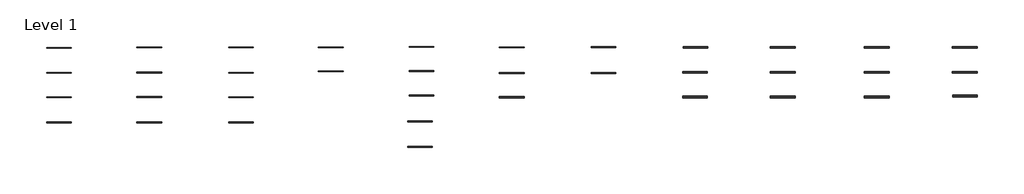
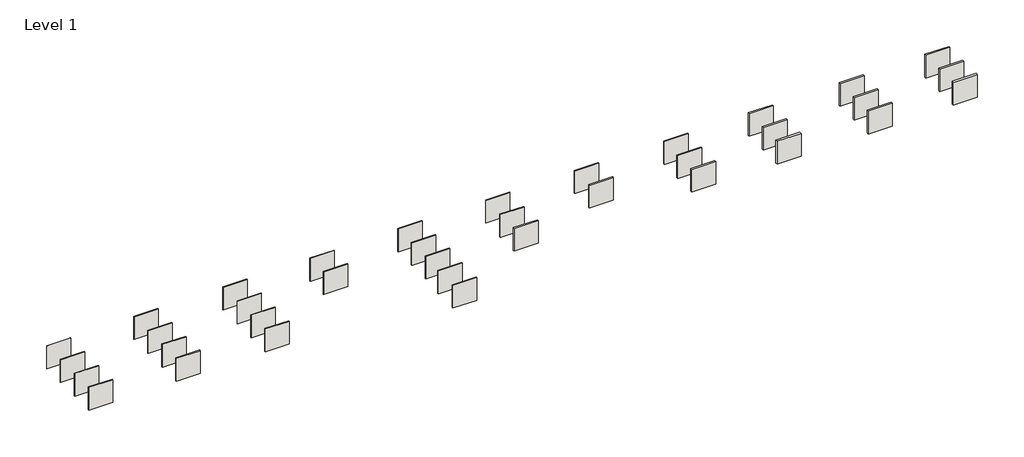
# One storey: 36 walls.
"""IFC4 building model written with IfcOpenShell, lengths in millimetres."""

from ifc_helpers import new_model, si_unit, origin, origin_with_axes, place, context, project, spatial, polyline, outline, extrude, element, save

model = new_model("IFC4")

# Units and contexts
model_context = context("Model", 3, world=origin())
ifc_project = project(units=[si_unit("LENGTHUNIT", "METRE", prefix="MILLI")], contexts=[model_context])

# Site, building, storey
site = spatial("IfcSite", under=ifc_project)
building = spatial("IfcBuilding", under=site)
storey = spatial("IfcBuildingStorey", under=building, Name="Level 1", Elevation=0.0)

# Walls
placement = place(None, origin())
element("IfcWall", 1, ObjectType="VE MR45 600 -/AA M45", at=placement, inside=storey, context=model_context, shape_type="SweptSolid", body=[
    extrude(outline(polyline([(-30801.5954882, -13133.6567413), (-34801.5954882, -13133.6567413), (-34801.5954882, -13063.6567391), (-30801.5954882, -13063.6567391), (-30801.5954882, -13133.6567413)])), origin_with_axes(), (0.0, 0.0, 1.0), 4000.0),
])
element("IfcWall", 2, ObjectType="VE MR70 600-/AA M45", at=placement, inside=storey, context=model_context, shape_type="SweptSolid", body=[
    extrude(outline(polyline([(-30801.5954882, -17163.936646), (-34801.5954882, -17163.936646), (-34801.5954882, -17068.9366429), (-30801.5954882, -17068.9366429), (-30801.5954882, -17163.936646)])), origin_with_axes(), (0.0, 0.0, 1.0), 4000.0),
])
element("IfcWall", 3, ObjectType="VE MR95 600 -/AA M45", at=placement, inside=storey, context=model_context, shape_type="SweptSolid", body=[
    extrude(outline(polyline([(-30801.5954882, -21151.7925516), (-34801.5954882, -21151.7925516), (-34801.5954882, -21031.7925478), (-30801.5954882, -21031.7925478), (-30801.5954882, -21151.7925516)])), origin_with_axes(), (0.0, 0.0, 1.0), 4000.0),
])
element("IfcWall", 4, ObjectType="VE MR120 600 -/AA M45", at=placement, inside=storey, context=model_context, shape_type="SweptSolid", body=[
    extrude(outline(polyline([(-30801.5954882, -25224.4964552), (-34801.5954882, -25224.4964552), (-34801.5954882, -25079.4964506), (-30801.5954882, -25079.4964506), (-30801.5954882, -25224.4964552)])), origin_with_axes(), (0.0, 0.0, 1.0), 4000.0),
])
element("IfcWall", 5, ObjectType="VE MR45 600 -/AAA M45", at=placement, inside=storey, context=model_context, shape_type="SweptSolid", body=[
    extrude(outline(polyline([(-16207.7398336, -13063.6567391), (-20207.7398336, -13063.6567391), (-20207.7398336, -12978.6567364), (-16207.7398336, -12978.6567364), (-16207.7398336, -13063.6567391)])), origin_with_axes(), (0.0, 0.0, 1.0), 4000.0),
])
element("IfcWall", 6, ObjectType="VE MR70 600 -/AAA M45", at=placement, inside=storey, context=model_context, shape_type="SweptSolid", body=[
    extrude(outline(polyline([(-16207.7398336, -17163.936646), (-20207.7398336, -17163.936646), (-20207.7398336, -17053.9366424), (-16207.7398336, -17053.9366424), (-16207.7398336, -17163.936646)])), origin_with_axes(), (0.0, 0.0, 1.0), 4000.0),
])
element("IfcWall", 7, ObjectType="VE MR95 600 -/AAA M45", at=placement, inside=storey, context=model_context, shape_type="SweptSolid", body=[
    extrude(outline(polyline([(-16207.7398336, -21151.7925516), (-20207.7398336, -21151.7925516), (-20207.7398336, -21016.7925473), (-16207.7398336, -21016.7925473), (-16207.7398336, -21151.7925516)])), origin_with_axes(), (0.0, 0.0, 1.0), 4000.0),
])
element("IfcWall", 8, ObjectType="VE MR120 600 -/AAA M45", at=placement, inside=storey, context=model_context, shape_type="SweptSolid", body=[
    extrude(outline(polyline([(-16207.7398336, -25224.4964552), (-20207.7398336, -25224.4964552), (-20207.7398336, -25064.4964501), (-16207.7398336, -25064.4964501), (-16207.7398336, -25224.4964552)])), origin_with_axes(), (0.0, 0.0, 1.0), 4000.0),
])
element("IfcWall", 9, ObjectType="VE MR45 600 A/A M45", at=placement, inside=storey, context=model_context, shape_type="SweptSolid", body=[
    extrude(outline(polyline([(-1364.4868988, -13063.6567391), (-5364.4868988, -13063.6567391), (-5364.4868988, -12993.6567368), (-1364.4868988, -12993.6567368), (-1364.4868988, -13063.6567391)])), origin_with_axes(), (0.0, 0.0, 1.0), 4000.0),
])
element("IfcWall", 10, ObjectType="VE MR70 600 A/A M45", at=placement, inside=storey, context=model_context, shape_type="SweptSolid", body=[
    extrude(outline(polyline([(-1364.4868988, -17163.936646), (-5364.4868988, -17163.936646), (-5364.4868988, -17068.9366429), (-1364.4868988, -17068.9366429), (-1364.4868988, -17163.936646)])), origin_with_axes(), (0.0, 0.0, 1.0), 4000.0),
])
element("IfcWall", 11, ObjectType="VE MR95 600 A/A M45", at=placement, inside=storey, context=model_context, shape_type="SweptSolid", body=[
    extrude(outline(polyline([(-1364.4868988, -21151.7925516), (-5364.4868988, -21151.7925516), (-5364.4868988, -21031.7925478), (-1364.4868988, -21031.7925478), (-1364.4868988, -21151.7925516)])), origin_with_axes(), (0.0, 0.0, 1.0), 4000.0),
])
element("IfcWall", 12, ObjectType="VE MR120 600 A/A M45", at=placement, inside=storey, context=model_context, shape_type="SweptSolid", body=[
    extrude(outline(polyline([(-1364.4868988, -25224.4964552), (-5364.4868988, -25224.4964552), (-5364.4868988, -25079.4964506), (-1364.4868988, -25079.4964506), (-1364.4868988, -25224.4964552)])), origin_with_axes(), (0.0, 0.0, 1.0), 4000.0),
])
element("IfcWall", 13, ObjectType="VE MR45 600 AA/AA M45", at=placement, inside=storey, context=model_context, shape_type="SweptSolid", body=[
    extrude(outline(polyline([(13137.8803041, -13063.6567391), (9137.8803041, -13063.6567391), (9137.8803041, -12968.656736), (13137.8803041, -12968.656736), (13137.8803041, -13063.6567391)])), origin_with_axes(), (0.0, 0.0, 1.0), 4000.0),
])
element("IfcWall", 14, ObjectType="VE MR+95 600 AA/AA MS", at=placement, inside=storey, context=model_context, shape_type="SweptSolid", body=[
    extrude(outline(polyline([(27585.9585974, -25066.5722658), (23585.9585974, -25066.5722658), (23585.9585974, -24921.5722611), (27585.9585974, -24921.5722611), (27585.9585974, -25066.5722658)])), origin_with_axes(), (0.0, 0.0, 1.0), 4000.0),
])
element("IfcWall", 15, ObjectType="VE MR+120 600 AA/AA MS", at=placement, inside=storey, context=model_context, shape_type="SweptSolid", body=[
    extrude(outline(polyline([(27585.9585974, -29238.0990545), (23585.9585974, -29238.0990545), (23585.9585974, -29068.099049), (27585.9585974, -29068.099049), (27585.9585974, -29238.0990545)])), origin_with_axes(), (0.0, 0.0, 1.0), 4000.0),
])
element("IfcWall", 16, ObjectType="VE MR70 600 AA/AA M45", at=placement, inside=storey, context=model_context, shape_type="SweptSolid", body=[
    extrude(outline(polyline([(27829.8965917, -12980.8560242), (23829.8965917, -12980.8560242), (23829.8965917, -12860.8560204), (27829.8965917, -12860.8560204), (27829.8965917, -12980.8560242)])), origin_with_axes(), (0.0, 0.0, 1.0), 4000.0),
])
element("IfcWall", 17, ObjectType="VE MR95 600 AA/AA M45", at=placement, inside=storey, context=model_context, shape_type="SweptSolid", body=[
    extrude(outline(polyline([(27829.8965917, -16958.6071588), (23829.8965917, -16958.6071588), (23829.8965917, -16813.6071542), (27829.8965917, -16813.6071542), (27829.8965917, -16958.6071588)])), origin_with_axes(), (0.0, 0.0, 1.0), 4000.0),
])
element("IfcWall", 18, ObjectType="VE MR120 600 AA/AA M45", at=placement, inside=storey, context=model_context, shape_type="SweptSolid", body=[
    extrude(outline(polyline([(27829.8965917, -20936.3582934), (23829.8965917, -20936.3582934), (23829.8965917, -20766.358288), (27829.8965917, -20766.358288), (27829.8965917, -20936.3582934)])), origin_with_axes(), (0.0, 0.0, 1.0), 4000.0),
])
element("IfcWall", 19, ObjectType="VE MR70 600 AA/AA M70", at=placement, inside=storey, context=model_context, shape_type="SweptSolid", body=[
    extrude(outline(polyline([(42425.6769646, -13063.6567391), (38425.6769646, -13063.6567391), (38425.6769646, -12943.6567352), (42425.6769646, -12943.6567352), (42425.6769646, -13063.6567391)])), origin_with_axes(), (0.0, 0.0, 1.0), 4000.0),
])
element("IfcWall", 20, ObjectType="VE MR95 600 AA/AA M70", at=placement, inside=storey, context=model_context, shape_type="SweptSolid", body=[
    extrude(outline(polyline([(42425.6769646, -17235.1835278), (38425.6769646, -17235.1835278), (38425.6769646, -17090.1835231), (42425.6769646, -17090.1835231), (42425.6769646, -17235.1835278)])), origin_with_axes(), (0.0, 0.0, 1.0), 4000.0),
])
element("IfcWall", 21, ObjectType="VE MR120 600 AA/AA M70", at=placement, inside=storey, context=model_context, shape_type="SweptSolid", body=[
    extrude(outline(polyline([(42425.6769646, -21180.8560242), (38425.6769646, -21180.8560242), (38425.6769646, -21010.8560188), (42425.6769646, -21010.8560188), (42425.6769646, -21180.8560242)])), origin_with_axes(), (0.0, 0.0, 1.0), 4000.0),
])
element("IfcWall", 22, ObjectType="VE MR95 600 AA/AA M95", at=placement, inside=storey, context=model_context, shape_type="SweptSolid", body=[
    extrude(outline(polyline([(57246.0078049, -13063.6567391), (53246.0078049, -13063.6567391), (53246.0078049, -12918.6567344), (57246.0078049, -12918.6567344), (57246.0078049, -13063.6567391)])), origin_with_axes(), (0.0, 0.0, 1.0), 4000.0),
])
element("IfcWall", 23, ObjectType="VE MR120 600 AA/AA M95", at=placement, inside=storey, context=model_context, shape_type="SweptSolid", body=[
    extrude(outline(polyline([(57246.0078049, -17235.1835278), (53246.0078049, -17235.1835278), (53246.0078049, -17065.1835223), (57246.0078049, -17065.1835223), (57246.0078049, -17235.1835278)])), origin_with_axes(), (0.0, 0.0, 1.0), 4000.0),
])
element("IfcWall", 24, ObjectType="VD MR70 600 AA/AA M90_DK", at=placement, inside=storey, context=model_context, shape_type="SweptSolid", body=[
    extrude(outline(polyline([(72132.461876, -13129.1178404), (68132.461876, -13129.1178404), (68132.461876, -12899.1178331), (72132.461876, -12899.1178331), (72132.461876, -13129.1178404)])), origin_with_axes(), (0.0, 0.0, 1.0), 4000.0),
])
element("IfcWall", 25, ObjectType="VD MR95 600 AA/AA M90", at=placement, inside=storey, context=model_context, shape_type="SweptSolid", body=[
    extrude(outline(polyline([(72034.2600069, -17171.0262514), (68034.2600069, -17171.0262514), (68034.2600069, -16921.0262434), (72034.2600069, -16921.0262434), (72034.2600069, -17171.0262514)])), origin_with_axes(), (0.0, 0.0, 1.0), 4000.0),
])
element("IfcWall", 26, ObjectType="VD MR120 600 AA/AA M90", at=placement, inside=storey, context=model_context, shape_type="SweptSolid", body=[
    extrude(outline(polyline([(72034.2600069, -21180.8560242), (68034.2600069, -21180.8560242), (68034.2600069, -20880.8560146), (72034.2600069, -20880.8560146), (72034.2600069, -21180.8560242)])), origin_with_axes(), (0.0, 0.0, 1.0), 4000.0),
])
element("IfcWall", 27, ObjectType="VD MR70 600 AAA/AAA M140", at=placement, inside=storey, context=model_context, shape_type="SweptSolid", body=[
    extrude(outline(polyline([(86245.0967217, -13129.1178404), (82245.0967217, -13129.1178404), (82245.0967217, -12904.1178332), (86245.0967217, -12904.1178332), (86245.0967217, -13129.1178404)])), origin_with_axes(), (0.0, 0.0, 1.0), 4000.0),
])
element("IfcWall", 28, ObjectType="VD MR95 600 AAA/AAA M140", at=placement, inside=storey, context=model_context, shape_type="SweptSolid", body=[
    extrude(outline(polyline([(86245.0967217, -17171.0262514), (82245.0967217, -17171.0262514), (82245.0967217, -16906.0262429), (86245.0967217, -16906.0262429), (86245.0967217, -17171.0262514)])), origin_with_axes(), (0.0, 0.0, 1.0), 4000.0),
])
element("IfcWall", 29, ObjectType="VD MR120 600 AAA/AAA M140", at=placement, inside=storey, context=model_context, shape_type="SweptSolid", body=[
    extrude(outline(polyline([(86245.0967217, -21180.8560242), (82245.0967217, -21180.8560242), (82245.0967217, -20865.8560141), (86245.0967217, -20865.8560141), (86245.0967217, -21180.8560242)])), origin_with_axes(), (0.0, 0.0, 1.0), 4000.0),
])
element("IfcWall", 30, ObjectType="VD MR70 600 FF/FF M90", at=placement, inside=storey, context=model_context, shape_type="SweptSolid", body=[
    extrude(outline(polyline([(101418.292582, -13129.1178404), (97418.292582, -13129.1178404), (97418.292582, -12899.1178331), (101418.292582, -12899.1178331), (101418.292582, -13129.1178404)])), origin_with_axes(), (0.0, 0.0, 1.0), 4000.0),
])
element("IfcWall", 31, ObjectType="VD MR95 600 FF/FF M90", at=placement, inside=storey, context=model_context, shape_type="SweptSolid", body=[
    extrude(outline(polyline([(101418.292582, -17171.0262514), (97418.292582, -17171.0262514), (97418.292582, -16911.0262431), (101418.292582, -16911.0262431), (101418.292582, -17171.0262514)])), origin_with_axes(), (0.0, 0.0, 1.0), 4000.0),
])
element("IfcWall", 32, ObjectType="VD MR120 600 FF/FF M90", at=placement, inside=storey, context=model_context, shape_type="SweptSolid", body=[
    extrude(outline(polyline([(101418.292582, -21180.8560242), (97418.292582, -21180.8560242), (97418.292582, -20870.8560143), (101418.292582, -20870.8560143), (101418.292582, -21180.8560242)])), origin_with_axes(), (0.0, 0.0, 1.0), 4000.0),
])
element("IfcWall", 33, ObjectType="VD MR70 600 AFF/FFA M140", at=placement, inside=storey, context=model_context, shape_type="SweptSolid", body=[
    extrude(outline(polyline([(115661.2079349, -13129.1178404), (111661.2079349, -13129.1178404), (111661.2079349, -12894.1178329), (115661.2079349, -12894.1178329), (115661.2079349, -13129.1178404)])), origin_with_axes(), (0.0, 0.0, 1.0), 4000.0),
])
element("IfcWall", 34, ObjectType="VD MR95 600 AFF/FFA M140", at=placement, inside=storey, context=model_context, shape_type="SweptSolid", body=[
    extrude(outline(polyline([(115661.2079349, -17171.0262514), (111661.2079349, -17171.0262514), (111661.2079349, -16896.0262426), (115661.2079349, -16896.0262426), (115661.2079349, -17171.0262514)])), origin_with_axes(), (0.0, 0.0, 1.0), 4000.0),
])
element("IfcWall", 35, ObjectType="VD MR120 600 AFF/FFA M140", at=placement, inside=storey, context=model_context, shape_type="SweptSolid", body=[
    extrude(outline(polyline([(115709.1820333, -21070.8560143), (111709.1820333, -21070.8560143), (111709.1820333, -20745.8560039), (115709.1820333, -20745.8560039), (115709.1820333, -21070.8560143)])), origin_with_axes(), (0.0, 0.0, 1.0), 4000.0),
])
element("IfcWall", 36, ObjectType="VE MR+70 600 AA/AA MS", at=placement, inside=storey, context=model_context, shape_type="SweptSolid", body=[
    extrude(outline(polyline([(13137.8803041, -16958.6071588), (9137.8803041, -16958.6071588), (9137.8803041, -16838.607155), (13137.8803041, -16838.607155), (13137.8803041, -16958.6071588)])), origin_with_axes(), (0.0, 0.0, 1.0), 4000.0),
])

save(model, "model.ifc")
